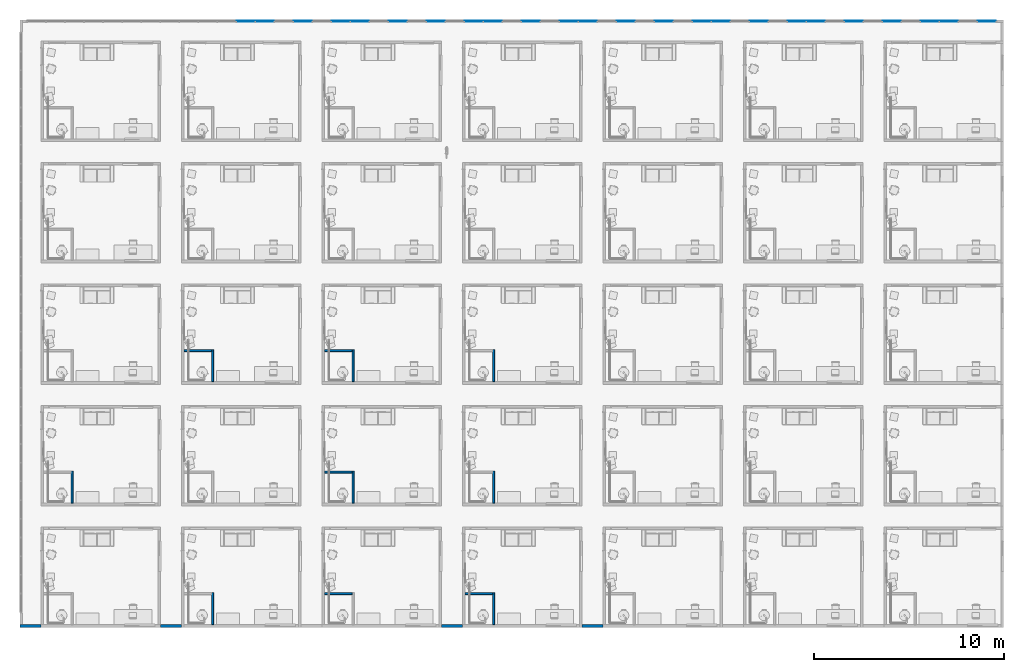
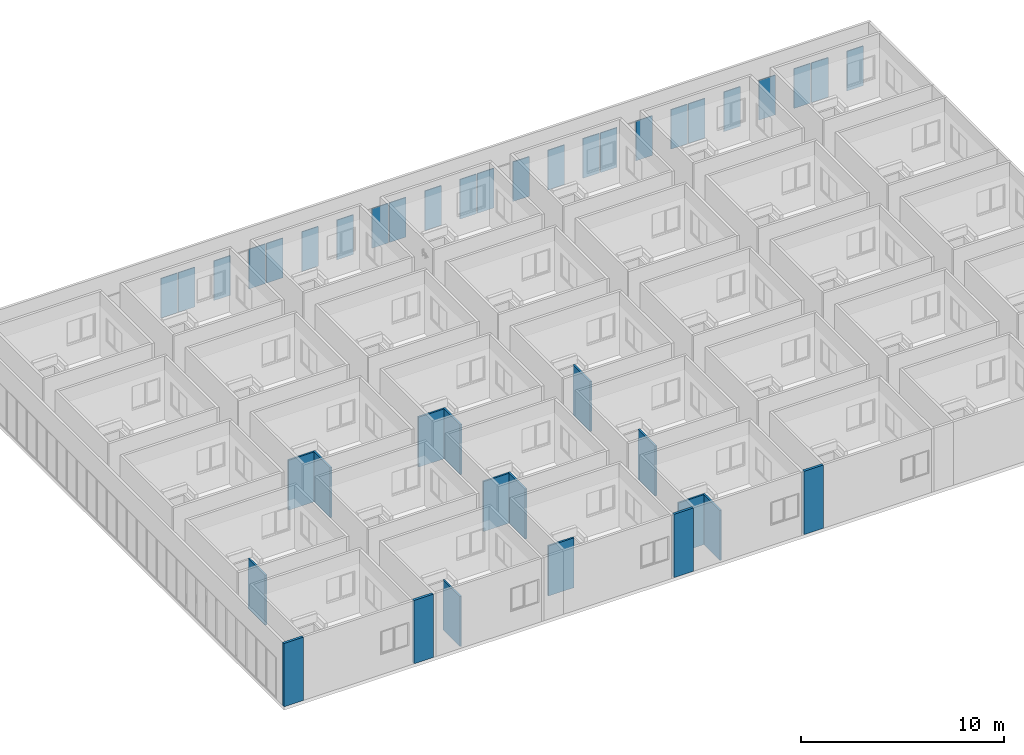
# One storey, part 6 of 69: 24 plates, 17 walls, 1 element without a shape of its own.
"""IFC4 building model written with IfcOpenShell, lengths in centimetres."""

from ifc_helpers import new_model, entity, si_unit, converted_unit, derived_unit, direction, frame, origin, place, context, subcontext, project, spatial, indexed_curve, outline, extrude, source, transform, mapped, material, type_object, type_shapes, element, aggregate, save


model = new_model("IFC4")

# Units and contexts
model_context = context("Model", 3, precision=0.001, world=origin(), true_north=direction((6.123233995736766e-17, 1.0)))
body_context = subcontext(model_context, "Body", "Model", "MODEL_VIEW")
ifc_project = project(units=[si_unit("LENGTHUNIT", "METRE", prefix="CENTI"), si_unit("AREAUNIT", "SQUARE_METRE"), si_unit("VOLUMEUNIT", "CUBIC_METRE"), derived_unit("THERMALTRANSMITTANCEUNIT", [(si_unit("MASSUNIT", "GRAM", prefix="KILO"), 1), (si_unit("THERMODYNAMICTEMPERATUREUNIT", "KELVIN"), -1), (si_unit("TIMEUNIT", "SECOND"), -3)]), converted_unit("PLANEANGLEUNIT", "DEGREE", entity("IfcPlaneAngleMeasure", 0.017453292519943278), si_unit("PLANEANGLEUNIT", "RADIAN"), dimensions=[0, 0, 0, 0, 0, 0, 0]), derived_unit("MASSDENSITYUNIT", [(si_unit("MASSUNIT", "GRAM", prefix="KILO"), 1), (si_unit("LENGTHUNIT", "METRE"), -3)]), derived_unit("VAPORPERMEABILITYUNIT", [(si_unit("LENGTHUNIT", "METRE"), -1), (si_unit("TIMEUNIT", "SECOND"), 1)]), derived_unit("USERDEFINED", [(si_unit("MASSUNIT", "GRAM", prefix="KILO"), 1), (si_unit("TIMEUNIT", "SECOND"), -3), (si_unit("LENGTHUNIT", "METRE"), 3), (si_unit("ELECTRICCURRENTUNIT", "AMPERE"), -2)]), derived_unit("SPECIFICHEATCAPACITYUNIT", [(si_unit("THERMODYNAMICTEMPERATUREUNIT", "KELVIN"), -1), (si_unit("LENGTHUNIT", "METRE"), 2), (si_unit("TIMEUNIT", "SECOND"), -2)]), derived_unit("THERMALCONDUCTANCEUNIT", [(si_unit("MASSUNIT", "GRAM", prefix="KILO"), 1), (si_unit("THERMODYNAMICTEMPERATUREUNIT", "KELVIN"), -1), (si_unit("TIMEUNIT", "SECOND"), -3), (si_unit("LENGTHUNIT", "METRE"), 1)]), si_unit("PRESSUREUNIT", "PASCAL"), derived_unit("MODULUSOFELASTICITYUNIT", [(si_unit("MASSUNIT", "GRAM", prefix="KILO"), 1), (si_unit("LENGTHUNIT", "METRE"), -1), (si_unit("TIMEUNIT", "SECOND"), -2)]), derived_unit("THERMALEXPANSIONCOEFFICIENTUNIT", [(si_unit("THERMODYNAMICTEMPERATUREUNIT", "KELVIN"), -1)])], contexts=[model_context])

# Site, building, storey
site_placement = place(None, origin())
site = spatial("IfcSite", under=ifc_project, at=site_placement, Name="Default", CompositionType="ELEMENT")
building_placement = place(site_placement, origin())
building = spatial("IfcBuilding", under=site, at=building_placement, Name="IDS Escape Game Building", CompositionType="ELEMENT")
storey_placement = place(building_placement, origin())
storey = spatial("IfcBuildingStorey", under=building, at=storey_placement, Name="00_Ground Floor", CompositionType="ELEMENT", Elevation=0.0)

# Curtain wall, plates
curtain_wall_type = type_object("IfcCurtainWallType", Name="Curtain Wall:ARC_31.3_CWA_LIB_bandraam vast 100cm - profiel 60x60_gen_BERSnl", PredefinedType="NOTDEFINED")
curtain_wall_placement = place(storey_placement, origin())
curtain_wall = element("IfcCurtainWall", 1, at=curtain_wall_placement, inside=storey, type_object=curtain_wall_type, Name="Curtain Wall:ARC_31.3_CWA_LIB_bandraam vast 100cm - profiel 60x60_gen_BERSnl", ObjectType="Curtain Wall:ARC_31.3_CWA_LIB_bandraam vast 100cm - profiel 60x60_gen_BERSnl", PredefinedType="NOTDEFINED")
ifc_material_1 = material(Name="ARC_FME.o1_glass_00_gen_BERSnl", Category="o - glas")
plate_type = type_object("IfcPlateType", Name="System Panel:Glazed", PredefinedType="CURTAIN_PANEL", material=ifc_material_1)
shared_shape = source(origin(), body_context, "Body", "SweptSolid", [
    extrude(outline(indexed_curve([(-2.5, -46.92156864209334), (2.5, -46.92156864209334), (2.5, 46.92156864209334), (-2.5, 46.92156864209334), (-2.5, -46.92156864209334)], self_intersect=False)), frame((0.0, 0.0, 0.0), z_axis=(0.0, 0.0, 1.0), x_axis=(0.0, 1.0, 0.0)), (0.0, 0.0, 1.0), 238.00000000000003),
])
type_shapes(plate_type, [shared_shape])
plate_1_placement = place(curtain_wall_placement, frame((1068.1960784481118, 3182.0, 6.0)))
plate_1 = element("IfcPlate", 2, at=plate_1_placement, type_object=plate_type, material=ifc_material_1, Name="System Panel:Glazed", ObjectType="System Panel:Glazed", PredefinedType="CURTAIN_PANEL", context=body_context, shape_type="MappedRepresentation", body=[
    mapped(shared_shape, transform((0.0, 0.0, 0.0), scale=1.0)),
])
plate_2_placement = place(curtain_wall_placement, frame((1168.0392157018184, 3182.0, 6.0)))
plate_2 = element("IfcPlate", 3, at=plate_2_placement, type_object=plate_type, material=ifc_material_1, Name="System Panel:Glazed", ObjectType="System Panel:Glazed", PredefinedType="CURTAIN_PANEL", context=body_context, shape_type="MappedRepresentation", body=[
    mapped(shared_shape, transform((0.0, 0.0, 0.0), scale=1.0)),
])
plate_3_placement = place(curtain_wall_placement, frame((1367.725490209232, 3182.0, 6.0)))
plate_3 = element("IfcPlate", 4, at=plate_3_placement, type_object=plate_type, material=ifc_material_1, Name="System Panel:Glazed", ObjectType="System Panel:Glazed", PredefinedType="CURTAIN_PANEL", context=body_context, shape_type="MappedRepresentation", body=[
    mapped(shared_shape, transform((0.0, 0.0, 0.0), scale=1.0)),
])
plate_4_placement = place(curtain_wall_placement, frame((1567.4117647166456, 3182.0, 6.0)))
plate_4 = element("IfcPlate", 5, at=plate_4_placement, type_object=plate_type, material=ifc_material_1, Name="System Panel:Glazed", ObjectType="System Panel:Glazed", PredefinedType="CURTAIN_PANEL", context=body_context, shape_type="MappedRepresentation", body=[
    mapped(shared_shape, transform((0.0, 0.0, 0.0), scale=1.0)),
])
plate_5_placement = place(curtain_wall_placement, frame((1667.2549019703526, 3182.0, 6.0)))
plate_5 = element("IfcPlate", 6, at=plate_5_placement, type_object=plate_type, material=ifc_material_1, Name="System Panel:Glazed", ObjectType="System Panel:Glazed", PredefinedType="CURTAIN_PANEL", context=body_context, shape_type="MappedRepresentation", body=[
    mapped(shared_shape, transform((0.0, 0.0, 0.0), scale=1.0)),
])
plate_6_placement = place(curtain_wall_placement, frame((1866.9411764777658, 3182.0, 6.0)))
plate_6 = element("IfcPlate", 7, at=plate_6_placement, type_object=plate_type, material=ifc_material_1, Name="System Panel:Glazed", ObjectType="System Panel:Glazed", PredefinedType="CURTAIN_PANEL", context=body_context, shape_type="MappedRepresentation", body=[
    mapped(shared_shape, transform((0.0, 0.0, 0.0), scale=1.0)),
])
plate_7_placement = place(curtain_wall_placement, frame((2066.627450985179, 3182.0, 6.0)))
plate_7 = element("IfcPlate", 8, at=plate_7_placement, type_object=plate_type, material=ifc_material_1, Name="System Panel:Glazed", ObjectType="System Panel:Glazed", PredefinedType="CURTAIN_PANEL", context=body_context, shape_type="MappedRepresentation", body=[
    mapped(shared_shape, transform((0.0, 0.0, 0.0), scale=1.0)),
])
plate_8_placement = place(curtain_wall_placement, frame((2266.313725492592, 3182.0, 6.0)))
plate_8 = element("IfcPlate", 9, at=plate_8_placement, type_object=plate_type, material=ifc_material_1, Name="System Panel:Glazed", ObjectType="System Panel:Glazed", PredefinedType="CURTAIN_PANEL", context=body_context, shape_type="MappedRepresentation", body=[
    mapped(shared_shape, transform((0.0, 0.0, 0.0), scale=1.0)),
])
plate_9_placement = place(curtain_wall_placement, frame((2366.156862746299, 3182.0, 6.0)))
plate_9 = element("IfcPlate", 10, at=plate_9_placement, type_object=plate_type, material=ifc_material_1, Name="System Panel:Glazed", ObjectType="System Panel:Glazed", PredefinedType="CURTAIN_PANEL", context=body_context, shape_type="MappedRepresentation", body=[
    mapped(shared_shape, transform((0.0, 0.0, 0.0), scale=1.0)),
])
plate_10_placement = place(curtain_wall_placement, frame((2565.843137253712, 3182.0, 6.0)))
plate_10 = element("IfcPlate", 11, at=plate_10_placement, type_object=plate_type, material=ifc_material_1, Name="System Panel:Glazed", ObjectType="System Panel:Glazed", PredefinedType="CURTAIN_PANEL", context=body_context, shape_type="MappedRepresentation", body=[
    mapped(shared_shape, transform((0.0, 0.0, 0.0), scale=1.0)),
])
plate_11_placement = place(curtain_wall_placement, frame((2765.529411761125, 3182.0, 6.0)))
plate_11 = element("IfcPlate", 12, at=plate_11_placement, type_object=plate_type, material=ifc_material_1, Name="System Panel:Glazed", ObjectType="System Panel:Glazed", PredefinedType="CURTAIN_PANEL", context=body_context, shape_type="MappedRepresentation", body=[
    mapped(shared_shape, transform((0.0, 0.0, 0.0), scale=1.0)),
])
plate_12_placement = place(curtain_wall_placement, frame((2865.3725490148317, 3182.0, 6.0)))
plate_12 = element("IfcPlate", 13, at=plate_12_placement, type_object=plate_type, material=ifc_material_1, Name="System Panel:Glazed", ObjectType="System Panel:Glazed", PredefinedType="CURTAIN_PANEL", context=body_context, shape_type="MappedRepresentation", body=[
    mapped(shared_shape, transform((0.0, 0.0, 0.0), scale=1.0)),
])
plate_13_placement = place(curtain_wall_placement, frame((3065.0588235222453, 3182.0, 6.0)))
plate_13 = element("IfcPlate", 14, at=plate_13_placement, type_object=plate_type, material=ifc_material_1, Name="System Panel:Glazed", ObjectType="System Panel:Glazed", PredefinedType="CURTAIN_PANEL", context=body_context, shape_type="MappedRepresentation", body=[
    mapped(shared_shape, transform((0.0, 0.0, 0.0), scale=1.0)),
])
plate_14_placement = place(curtain_wall_placement, frame((3264.745098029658, 3182.0, 6.0)))
plate_14 = element("IfcPlate", 15, at=plate_14_placement, type_object=plate_type, material=ifc_material_1, Name="System Panel:Glazed", ObjectType="System Panel:Glazed", PredefinedType="CURTAIN_PANEL", context=body_context, shape_type="MappedRepresentation", body=[
    mapped(shared_shape, transform((0.0, 0.0, 0.0), scale=1.0)),
])
plate_15_placement = place(curtain_wall_placement, frame((3464.431372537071, 3182.0, 6.0)))
plate_15 = element("IfcPlate", 16, at=plate_15_placement, type_object=plate_type, material=ifc_material_1, Name="System Panel:Glazed", ObjectType="System Panel:Glazed", PredefinedType="CURTAIN_PANEL", context=body_context, shape_type="MappedRepresentation", body=[
    mapped(shared_shape, transform((0.0, 0.0, 0.0), scale=1.0)),
])
plate_16_placement = place(curtain_wall_placement, frame((3564.2745097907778, 3182.0, 6.0)))
plate_16 = element("IfcPlate", 17, at=plate_16_placement, type_object=plate_type, material=ifc_material_1, Name="System Panel:Glazed", ObjectType="System Panel:Glazed", PredefinedType="CURTAIN_PANEL", context=body_context, shape_type="MappedRepresentation", body=[
    mapped(shared_shape, transform((0.0, 0.0, 0.0), scale=1.0)),
])
plate_17_placement = place(curtain_wall_placement, frame((3763.9607842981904, 3182.0, 6.0)))
plate_17 = element("IfcPlate", 18, at=plate_17_placement, type_object=plate_type, material=ifc_material_1, Name="System Panel:Glazed", ObjectType="System Panel:Glazed", PredefinedType="CURTAIN_PANEL", context=body_context, shape_type="MappedRepresentation", body=[
    mapped(shared_shape, transform((0.0, 0.0, 0.0), scale=1.0)),
])
plate_18_placement = place(curtain_wall_placement, frame((3963.647058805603, 3182.0, 6.0)))
plate_18 = element("IfcPlate", 19, at=plate_18_placement, type_object=plate_type, material=ifc_material_1, Name="System Panel:Glazed", ObjectType="System Panel:Glazed", PredefinedType="CURTAIN_PANEL", context=body_context, shape_type="MappedRepresentation", body=[
    mapped(shared_shape, transform((0.0, 0.0, 0.0), scale=1.0)),
])
plate_19_placement = place(curtain_wall_placement, frame((4063.4901960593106, 3182.0, 6.0)))
plate_19 = element("IfcPlate", 20, at=plate_19_placement, type_object=plate_type, material=ifc_material_1, Name="System Panel:Glazed", ObjectType="System Panel:Glazed", PredefinedType="CURTAIN_PANEL", context=body_context, shape_type="MappedRepresentation", body=[
    mapped(shared_shape, transform((0.0, 0.0, 0.0), scale=1.0)),
])
plate_20_placement = place(curtain_wall_placement, frame((4263.176470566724, 3182.0, 6.0)))
plate_20 = element("IfcPlate", 21, at=plate_20_placement, type_object=plate_type, material=ifc_material_1, Name="System Panel:Glazed", ObjectType="System Panel:Glazed", PredefinedType="CURTAIN_PANEL", context=body_context, shape_type="MappedRepresentation", body=[
    mapped(shared_shape, transform((0.0, 0.0, 0.0), scale=1.0)),
])
plate_21_placement = place(curtain_wall_placement, frame((4462.862745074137, 3182.0, 6.0)))
plate_21 = element("IfcPlate", 22, at=plate_21_placement, type_object=plate_type, material=ifc_material_1, Name="System Panel:Glazed", ObjectType="System Panel:Glazed", PredefinedType="CURTAIN_PANEL", context=body_context, shape_type="MappedRepresentation", body=[
    mapped(shared_shape, transform((0.0, 0.0, 0.0), scale=1.0)),
])
plate_22_placement = place(curtain_wall_placement, frame((4662.54901958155, 3182.0, 6.0)))
plate_22 = element("IfcPlate", 23, at=plate_22_placement, type_object=plate_type, material=ifc_material_1, Name="System Panel:Glazed", ObjectType="System Panel:Glazed", PredefinedType="CURTAIN_PANEL", context=body_context, shape_type="MappedRepresentation", body=[
    mapped(shared_shape, transform((0.0, 0.0, 0.0), scale=1.0)),
])
plate_23_placement = place(curtain_wall_placement, frame((4762.392156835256, 3182.0, 6.0)))
plate_23 = element("IfcPlate", 24, at=plate_23_placement, type_object=plate_type, material=ifc_material_1, Name="System Panel:Glazed", ObjectType="System Panel:Glazed", PredefinedType="CURTAIN_PANEL", context=body_context, shape_type="MappedRepresentation", body=[
    mapped(shared_shape, transform((0.0, 0.0, 0.0), scale=1.0)),
])
plate_24_placement = place(curtain_wall_placement, frame((4962.078431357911, 3182.0, 6.0)))
plate_24 = element("IfcPlate", 25, at=plate_24_placement, type_object=plate_type, material=ifc_material_1, Name="System Panel:Glazed", ObjectType="System Panel:Glazed", PredefinedType="CURTAIN_PANEL", context=body_context, shape_type="MappedRepresentation", body=[
    mapped(shared_shape, transform((0.0, 0.0, 0.0), scale=1.0)),
])
aggregate(curtain_wall, [plate_1, plate_2, plate_3, plate_4, plate_5, plate_6, plate_7, plate_8, plate_9, plate_10, plate_11, plate_12, plate_13, plate_14, plate_15, plate_16, plate_17, plate_18, plate_19, plate_20, plate_21, plate_22, plate_23, plate_24])

# Walls
ifc_material_2 = material(Name="ARC_FME.g2_Fg2 Masonry_00_gen_BERSnl", Category="g - klei")
wall_type_1 = type_object("IfcWallType", Name="Basic Wall:ARC_22.10_WA_LB_SB14_gen_BERSnl", PredefinedType="STANDARD")
wall_1_placement = place(storey_placement, frame((731.0, 6.0, 0.0), z_axis=(0.0, 0.0, 1.0), x_axis=(-1.0, 0.0, 0.0)))
element("IfcWall", 26, at=wall_1_placement, inside=storey, type_object=wall_type_1, material=ifc_material_2, Name="Basic Wall:ARC_22.10_WA_LB_SB14_gen_BERSnl", ObjectType="Basic Wall:ARC_22.10_WA_LB_SB14_gen_BERSnl", PredefinedType="NOTDEFINED", context=body_context, shape_type="SweptSolid", body=[
    extrude(outline(indexed_curve([(110.0000000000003, 7.000000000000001), (-2.2611003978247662e-14, 7.0), (2.2611003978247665e-14, -7.000000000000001), (110.00000000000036, -7.000000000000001), (110.0000000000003, 7.000000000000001)], self_intersect=False)), origin(), (0.0, 0.0, 1.0), 380.0),
])
wall_2_placement = place(storey_placement, frame((2207.0, 6.0, 0.0), z_axis=(0.0, 0.0, 1.0), x_axis=(-1.0, 0.0, 0.0)))
element("IfcWall", 27, at=wall_2_placement, inside=storey, type_object=wall_type_1, material=ifc_material_2, Name="Basic Wall:ARC_22.10_WA_LB_SB14_gen_BERSnl", ObjectType="Basic Wall:ARC_22.10_WA_LB_SB14_gen_BERSnl", PredefinedType="NOTDEFINED", context=body_context, shape_type="SweptSolid", body=[
    extrude(outline(indexed_curve([(110.00000000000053, 7.000000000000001), (-2.2611003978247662e-14, 7.0), (2.2611003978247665e-14, -7.000000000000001), (110.00000000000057, -7.000000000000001), (110.00000000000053, 7.000000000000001)], self_intersect=False)), origin(), (0.0, 0.0, 1.0), 380.0),
])
wall_3_placement = place(storey_placement, frame((2945.0, 6.0, 0.0), z_axis=(0.0, 0.0, 1.0), x_axis=(-1.0, 0.0, 0.0)))
element("IfcWall", 28, at=wall_3_placement, inside=storey, type_object=wall_type_1, material=ifc_material_2, Name="Basic Wall:ARC_22.10_WA_LB_SB14_gen_BERSnl", ObjectType="Basic Wall:ARC_22.10_WA_LB_SB14_gen_BERSnl", PredefinedType="NOTDEFINED", context=body_context, shape_type="SweptSolid", body=[
    extrude(outline(indexed_curve([(110.00000000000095, 6.999999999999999), (-2.2611003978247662e-14, 7.0), (2.2611003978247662e-14, -6.999999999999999), (110.00000000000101, -6.999999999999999), (110.00000000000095, 6.999999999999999)], self_intersect=False)), origin(), (0.0, 0.0, 1.0), 380.0),
])
wall_4_placement = place(storey_placement, frame((-7.0, 6.0, 0.0), z_axis=(0.0, 0.0, 1.0), x_axis=(-1.0, 0.0, 0.0)))
element("IfcWall", 29, at=wall_4_placement, inside=storey, type_object=wall_type_1, material=ifc_material_2, Name="Basic Wall:ARC_22.10_WA_LB_SB14_gen_BERSnl", ObjectType="Basic Wall:ARC_22.10_WA_LB_SB14_gen_BERSnl", PredefinedType="NOTDEFINED", context=body_context, shape_type="SweptSolid", body=[
    extrude(outline(indexed_curve([(110.00000000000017, 7.000000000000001), (2.3072453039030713e-16, 7.0), (-2.307245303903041e-16, -7.000000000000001), (110.00000000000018, -7.000000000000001), (110.00000000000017, 7.000000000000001)], self_intersect=False)), origin(), (0.0, 0.0, 1.0), 380.0),
])
ifc_material_3 = material(Name="ARC_FME.r2_Plaster_white_gen_BERSnl", Category="r - klei, gips, magnesium en kunststof bindmiddelen")
wall_type_2 = type_object("IfcWallType", Name="Basic Wall:ARC_22.10_WA_LB_GPS10_gen_BERSnl", PredefinedType="STANDARD")
wall_5_placement = place(storey_placement, frame((895.0, 13.0, 0.0), z_axis=(0.0, 0.0, 1.0), x_axis=(0.0, 1.0, 0.0)))
element("IfcWall", 30, at=wall_5_placement, inside=storey, type_object=wall_type_2, material=ifc_material_3, Name="Basic Wall:ARC_22.10_WA_LB_GPS10_gen_BERSnl", ObjectType="Basic Wall:ARC_22.10_WA_LB_GPS10_gen_BERSnl", PredefinedType="NOTDEFINED", context=body_context, shape_type="SweptSolid", body=[
    extrude(outline(indexed_curve([(168.00000000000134, 4.999999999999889), (-1.1881077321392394e-15, 4.999999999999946), (-5.038721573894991e-16, -4.999999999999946), (168.00000000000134, -5.0000000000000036), (168.00000000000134, 4.999999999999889)], self_intersect=False)), origin(), (0.0, 0.0, 1.0), 300.0),
])
wall_6_placement = place(storey_placement, frame((1628.0, 176.0, 0.0), z_axis=(0.0, 0.0, 1.0), x_axis=(-1.0, 0.0, 0.0)))
element("IfcWall", 31, at=wall_6_placement, inside=storey, type_object=wall_type_2, material=ifc_material_3, Name="Basic Wall:ARC_22.10_WA_LB_GPS10_gen_BERSnl", ObjectType="Basic Wall:ARC_22.10_WA_LB_GPS10_gen_BERSnl", PredefinedType="NOTDEFINED", context=body_context, shape_type="SweptSolid", body=[
    extrude(outline(indexed_curve([(145.00000000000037, 5.000000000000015), (-1.6380951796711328e-14, 5.0), (1.6380951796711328e-14, -5.0), (145.00000000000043, -4.999999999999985), (145.00000000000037, 5.000000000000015)], self_intersect=False)), origin(), (0.0, 0.0, 1.0), 300.0),
])
wall_7_placement = place(storey_placement, frame((2371.0, 13.0, 0.0), z_axis=(0.0, 0.0, 1.0), x_axis=(0.0, 1.0, 0.0)))
element("IfcWall", 32, at=wall_7_placement, inside=storey, type_object=wall_type_2, material=ifc_material_3, Name="Basic Wall:ARC_22.10_WA_LB_GPS10_gen_BERSnl", ObjectType="Basic Wall:ARC_22.10_WA_LB_GPS10_gen_BERSnl", PredefinedType="NOTDEFINED", context=body_context, shape_type="SweptSolid", body=[
    extrude(outline(indexed_curve([(168.00000000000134, 4.9999999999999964), (-1.1881077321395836e-15, 5.0000000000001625), (-5.038721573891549e-16, -5.0000000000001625), (168.00000000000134, -5.000000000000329), (168.00000000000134, 4.9999999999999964)], self_intersect=False)), origin(), (0.0, 0.0, 1.0), 300.0),
])
wall_8_placement = place(storey_placement, frame((2366.0, 176.0, 0.0), z_axis=(0.0, 0.0, 1.0), x_axis=(-1.0, 0.0, 0.0)))
element("IfcWall", 33, at=wall_8_placement, inside=storey, type_object=wall_type_2, material=ifc_material_3, Name="Basic Wall:ARC_22.10_WA_LB_GPS10_gen_BERSnl", ObjectType="Basic Wall:ARC_22.10_WA_LB_GPS10_gen_BERSnl", PredefinedType="NOTDEFINED", context=body_context, shape_type="SweptSolid", body=[
    extrude(outline(indexed_curve([(144.99999999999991, 5.000000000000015), (-1.6380951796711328e-14, 5.0), (1.6380951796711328e-14, -5.0), (144.99999999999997, -4.999999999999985), (144.99999999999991, 5.000000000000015)], self_intersect=False)), origin(), (0.0, 0.0, 1.0), 300.0),
])
wall_9_placement = place(storey_placement, frame((157.0, 651.0, 0.0), z_axis=(0.0, 0.0, 1.0), x_axis=(0.0, 1.0, 0.0)))
element("IfcWall", 34, at=wall_9_placement, inside=storey, type_object=wall_type_2, material=ifc_material_3, Name="Basic Wall:ARC_22.10_WA_LB_GPS10_gen_BERSnl", ObjectType="Basic Wall:ARC_22.10_WA_LB_GPS10_gen_BERSnl", PredefinedType="NOTDEFINED", context=body_context, shape_type="SweptSolid", body=[
    extrude(outline(indexed_curve([(168.00000000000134, 4.9999999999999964), (-7.956027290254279e-15, 5.0), (7.956027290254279e-15, -5.0), (168.00000000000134, -5.0000000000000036), (168.00000000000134, 4.9999999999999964)], self_intersect=False)), origin(), (0.0, 0.0, 1.0), 300.0),
])
wall_10_placement = place(storey_placement, frame((1633.0, 651.0, 0.0), z_axis=(0.0, 0.0, 1.0), x_axis=(0.0, 1.0, 0.0)))
element("IfcWall", 35, at=wall_10_placement, inside=storey, type_object=wall_type_2, material=ifc_material_3, Name="Basic Wall:ARC_22.10_WA_LB_GPS10_gen_BERSnl", ObjectType="Basic Wall:ARC_22.10_WA_LB_GPS10_gen_BERSnl", PredefinedType="NOTDEFINED", context=body_context, shape_type="SweptSolid", body=[
    extrude(outline(indexed_curve([(168.00000000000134, 4.9999999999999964), (-7.956027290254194e-15, 4.999999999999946), (7.956027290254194e-15, -4.999999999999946), (168.00000000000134, -4.999999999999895), (168.00000000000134, 4.9999999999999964)], self_intersect=False)), origin(), (0.0, 0.0, 1.0), 300.0),
])
wall_11_placement = place(storey_placement, frame((1628.0, 814.0, 0.0), z_axis=(0.0, 0.0, 1.0), x_axis=(-1.0, 0.0, 0.0)))
element("IfcWall", 36, at=wall_11_placement, inside=storey, type_object=wall_type_2, material=ifc_material_3, Name="Basic Wall:ARC_22.10_WA_LB_GPS10_gen_BERSnl", ObjectType="Basic Wall:ARC_22.10_WA_LB_GPS10_gen_BERSnl", PredefinedType="NOTDEFINED", context=body_context, shape_type="SweptSolid", body=[
    extrude(outline(indexed_curve([(145.00000000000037, 4.99999999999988), (-1.6380951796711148e-14, 4.999999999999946), (1.6380951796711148e-14, -4.999999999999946), (145.00000000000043, -5.000000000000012), (145.00000000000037, 4.99999999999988)], self_intersect=False)), origin(), (0.0, 0.0, 1.0), 300.0),
])
wall_12_placement = place(storey_placement, frame((2371.0, 651.0, 0.0), z_axis=(0.0, 0.0, 1.0), x_axis=(0.0, 1.0, 0.0)))
element("IfcWall", 37, at=wall_12_placement, inside=storey, type_object=wall_type_2, material=ifc_material_3, Name="Basic Wall:ARC_22.10_WA_LB_GPS10_gen_BERSnl", ObjectType="Basic Wall:ARC_22.10_WA_LB_GPS10_gen_BERSnl", PredefinedType="NOTDEFINED", context=body_context, shape_type="SweptSolid", body=[
    extrude(outline(indexed_curve([(168.00000000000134, 4.9999999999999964), (-7.956027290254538e-15, 5.0000000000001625), (7.956027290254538e-15, -5.0000000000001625), (168.00000000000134, -5.000000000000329), (168.00000000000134, 4.9999999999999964)], self_intersect=False)), origin(), (0.0, 0.0, 1.0), 300.0),
])
wall_13_placement = place(storey_placement, frame((895.0, 1289.0, 0.0), z_axis=(0.0, 0.0, 1.0), x_axis=(0.0, 1.0, 0.0)))
element("IfcWall", 38, at=wall_13_placement, inside=storey, type_object=wall_type_2, material=ifc_material_3, Name="Basic Wall:ARC_22.10_WA_LB_GPS10_gen_BERSnl", ObjectType="Basic Wall:ARC_22.10_WA_LB_GPS10_gen_BERSnl", PredefinedType="NOTDEFINED", context=body_context, shape_type="SweptSolid", body=[
    extrude(outline(indexed_curve([(168.00000000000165, 4.999999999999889), (-7.956027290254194e-15, 4.999999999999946), (7.956027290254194e-15, -4.999999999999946), (168.00000000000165, -5.0000000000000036), (168.00000000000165, 4.999999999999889)], self_intersect=False)), origin(), (0.0, 0.0, 1.0), 300.0),
])
wall_14_placement = place(storey_placement, frame((890.0, 1452.0, 0.0), z_axis=(0.0, 0.0, 1.0), x_axis=(-1.0, 0.0, 0.0)))
element("IfcWall", 39, at=wall_14_placement, inside=storey, type_object=wall_type_2, material=ifc_material_3, Name="Basic Wall:ARC_22.10_WA_LB_GPS10_gen_BERSnl", ObjectType="Basic Wall:ARC_22.10_WA_LB_GPS10_gen_BERSnl", PredefinedType="NOTDEFINED", context=body_context, shape_type="SweptSolid", body=[
    extrude(outline(indexed_curve([(145.00000000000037, 4.9999999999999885), (-1.6380951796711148e-14, 4.999999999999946), (1.6380951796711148e-14, -4.999999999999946), (145.00000000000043, -4.999999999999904), (145.00000000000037, 4.9999999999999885)], self_intersect=False)), origin(), (0.0, 0.0, 1.0), 300.0),
])
wall_15_placement = place(storey_placement, frame((1633.0, 1289.0, 0.0), z_axis=(0.0, 0.0, 1.0), x_axis=(0.0, 1.0, 0.0)))
element("IfcWall", 40, at=wall_15_placement, inside=storey, type_object=wall_type_2, material=ifc_material_3, Name="Basic Wall:ARC_22.10_WA_LB_GPS10_gen_BERSnl", ObjectType="Basic Wall:ARC_22.10_WA_LB_GPS10_gen_BERSnl", PredefinedType="NOTDEFINED", context=body_context, shape_type="SweptSolid", body=[
    extrude(outline(indexed_curve([(168.00000000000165, 4.9999999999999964), (-7.956027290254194e-15, 4.999999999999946), (7.956027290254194e-15, -4.999999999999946), (168.00000000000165, -4.999999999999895), (168.00000000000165, 4.9999999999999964)], self_intersect=False)), origin(), (0.0, 0.0, 1.0), 300.0),
])
wall_16_placement = place(storey_placement, frame((1628.0, 1452.0, 0.0), z_axis=(0.0, 0.0, 1.0), x_axis=(-1.0, 0.0, 0.0)))
element("IfcWall", 41, at=wall_16_placement, inside=storey, type_object=wall_type_2, material=ifc_material_3, Name="Basic Wall:ARC_22.10_WA_LB_GPS10_gen_BERSnl", ObjectType="Basic Wall:ARC_22.10_WA_LB_GPS10_gen_BERSnl", PredefinedType="NOTDEFINED", context=body_context, shape_type="SweptSolid", body=[
    extrude(outline(indexed_curve([(145.00000000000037, 4.9999999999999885), (-1.6380951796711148e-14, 4.999999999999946), (1.6380951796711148e-14, -4.999999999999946), (145.00000000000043, -4.999999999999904), (145.00000000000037, 4.9999999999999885)], self_intersect=False)), origin(), (0.0, 0.0, 1.0), 300.0),
])
wall_17_placement = place(storey_placement, frame((2371.0, 1289.0, 0.0), z_axis=(0.0, 0.0, 1.0), x_axis=(0.0, 1.0, 0.0)))
element("IfcWall", 42, at=wall_17_placement, inside=storey, type_object=wall_type_2, material=ifc_material_3, Name="Basic Wall:ARC_22.10_WA_LB_GPS10_gen_BERSnl", ObjectType="Basic Wall:ARC_22.10_WA_LB_GPS10_gen_BERSnl", PredefinedType="NOTDEFINED", context=body_context, shape_type="SweptSolid", body=[
    extrude(outline(indexed_curve([(168.00000000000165, 4.9999999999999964), (-7.956027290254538e-15, 5.0000000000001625), (7.956027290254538e-15, -5.0000000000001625), (168.00000000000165, -5.000000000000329), (168.00000000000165, 4.9999999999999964)], self_intersect=False)), origin(), (0.0, 0.0, 1.0), 300.0),
])

save(model, "model.ifc")
